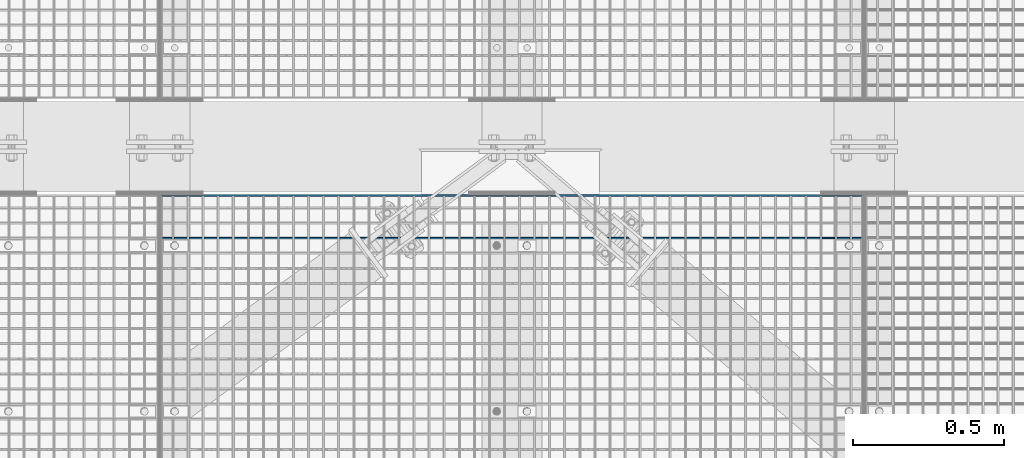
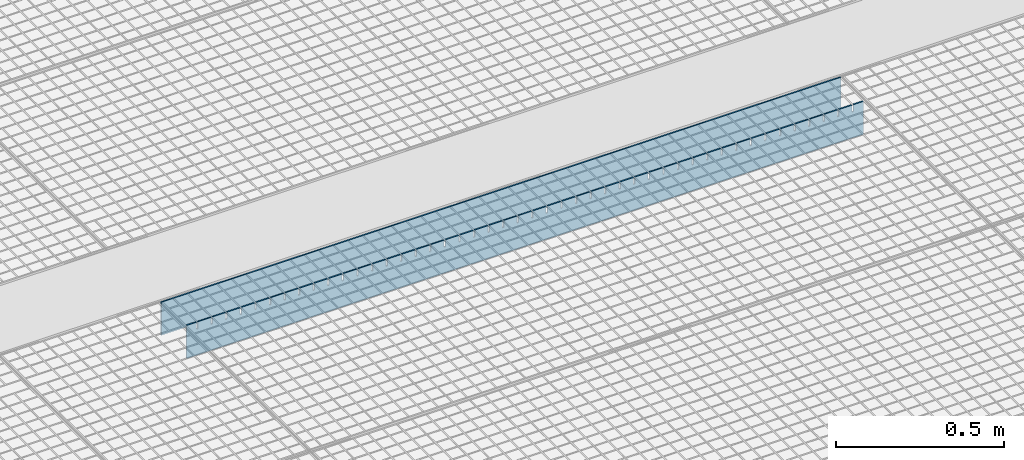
# One storey, part 333 of 1530: 2 beams.
"""IFC2X3 building model written with IfcOpenShell, lengths in millimetres."""

from ifc_helpers import new_model, si_unit, frame, origin_with_axes, place, context, subcontext, project, spatial, faceted_brep, material, type_object, element, save


model = new_model("IFC2X3")

# Units and contexts
model_context = context("Model", 3, precision=1e-05, world=origin_with_axes())
body_context = subcontext(model_context, "Body", "Model", "MODEL_VIEW")
ifc_project = project(units=[si_unit("LENGTHUNIT", "METRE", prefix="MILLI"), si_unit("AREAUNIT", "SQUARE_METRE"), si_unit("VOLUMEUNIT", "CUBIC_METRE"), si_unit("MASSUNIT", "GRAM", prefix="KILO"), si_unit("TIMEUNIT", "SECOND"), si_unit("PLANEANGLEUNIT", "RADIAN"), si_unit("SOLIDANGLEUNIT", "STERADIAN"), si_unit("THERMODYNAMICTEMPERATUREUNIT", "DEGREE_CELSIUS"), si_unit("LUMINOUSINTENSITYUNIT", "LUMEN")], contexts=[model_context])

# Site, building, storey
site_placement = place(None, origin_with_axes())
site = spatial("IfcSite", under=ifc_project, at=site_placement, Name="Brattvåg", CompositionType="ELEMENT")
building_placement = place(site_placement, origin_with_axes())
building = spatial("IfcBuilding", under=site, at=building_placement, Name="Undefined", CompositionType="ELEMENT")
storey_placement = place(building_placement, origin_with_axes())
storey = spatial("IfcBuildingStorey", under=building, at=storey_placement, Name="Undefined", CompositionType="ELEMENT", Elevation=0.0)

# Beams
ifc_material = material(Name="STEEL/S355J2")
beam_type = type_object("IfcBeamType", Name="120*5", PredefinedType="NOTDEFINED")
beam_1_placement = place(storey_placement, frame((5234.01317977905, 2696.99563598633, -59.9998626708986), z_axis=(0.0, 0.0, 1.0), x_axis=(-1.0, 1.99999855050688e-09, 0.0)))
element("IfcBeam", 1, at=beam_1_placement, inside=storey, type_object=beam_type, material=ifc_material, Name="GRATING", context=body_context, shape_type="Brep", body=[
    faceted_brep([(83.5790367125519, -2.50000000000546, 60.0000722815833), (83.5790367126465, -2.50000000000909, 35.0001373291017), (83.5790367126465, 2.50022888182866, 35.0001373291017), (83.5790367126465, 2.5, 60.0), (88.5790367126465, -2.50000000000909, 35.0001373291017), (88.5790367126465, 2.50022888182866, 35.0001373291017), (88.5790367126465, -2.50000000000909, 60.0001373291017), (88.5790367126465, 2.5, 60.0), (38.6284370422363, -2.50000000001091, 60.0001373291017), (38.6284370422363, 2.5, 60.0), (38.6284370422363, 2.49999999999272, 35.0001373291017), (38.6284370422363, -2.50000000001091, 35.0001373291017), (33.6284370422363, 2.49999999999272, 35.0001373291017), (33.6284370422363, -2.50000000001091, 35.0001373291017), (33.6284370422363, -2.5, 60.0), (33.6284370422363, 2.5, 60.0), (0.0, 2.5, 60.0), (0.0, -2.5, 60.0), (0.0, -2.5, -60.0), (0.0, 2.5, -60.0), (2319.99865722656, 2.5, -60.0), (2319.99865722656, -2.5, -60.0), (2319.99865722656, -2.5, 60.0), (2319.99865722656, 2.5, 60.0), (2286.37871932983, 2.5, 60.0), (2286.37871932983, -2.50000000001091, 60.0001373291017), (2286.37871932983, 2.49999999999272, 35.0001373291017), (2286.37871932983, -2.50000000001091, 35.0001373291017), (2281.37871932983, 2.49999999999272, 35.0001373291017), (2281.37871932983, -2.50000000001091, 35.0001373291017), (2281.37871932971, -2.50000000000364, 60.0000634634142), (2281.37871932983, 2.5, 60.0), (2236.42859649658, 2.5, 60.0), (2236.42859649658, -2.50000000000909, 60.0001373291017), (2236.42859649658, 2.50022888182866, 35.0001373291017), (2236.42859649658, -2.50000000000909, 35.0001373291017), (2231.42859649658, 2.50022888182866, 35.0001373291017), (2231.42859649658, -2.50000000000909, 35.0001373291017), (2231.42859649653, -2.50000000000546, 60.0000910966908), (2231.42859649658, 2.5, 60.0), (2186.47847366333, 2.5, 60.0), (2186.47847366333, -2.50000000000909, 60.0001373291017), (2186.47847366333, 2.50022888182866, 35.0001373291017), (2186.47847366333, -2.50000000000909, 35.0001373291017), (2181.47847366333, 2.50022888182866, 35.0001373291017), (2181.47847366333, -2.50000000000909, 35.0001373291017), (2181.47847366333, -2.5, 60.0), (2181.47847366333, 2.5, 60.0), (2136.52882766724, 2.5, 60.0), (2136.52882766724, -2.50000000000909, 60.0001373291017), (2136.52882766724, 2.50022888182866, 35.0001373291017), (2136.52882766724, -2.50000000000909, 35.0001373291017), (2131.52882766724, 2.50022888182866, 35.0001373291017), (2131.52882766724, -2.50000000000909, 35.0001373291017), (2131.52882766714, -2.50000000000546, 60.0000722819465), (2131.52882766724, 2.5, 60.0), (2086.57870483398, 2.5, 60.0), (2086.57870483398, -2.50000000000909, 60.0001373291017), (2086.57870483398, 2.50022888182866, 35.0001373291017), (2086.57870483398, -2.50000000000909, 35.0001373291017), (2081.57870483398, 2.50022888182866, 35.0001373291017), (2081.57870483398, -2.50000000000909, 35.0001373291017), (2081.57870483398, -2.5, 60.0), (2081.57870483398, 2.5, 60.0), (2036.62858200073, 2.5, 60.0), (2036.62858200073, -2.50000000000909, 60.0001373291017), (2036.62858200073, 2.50022888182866, 35.0001373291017), (2036.62858200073, -2.50000000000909, 35.0001373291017), (2031.62858200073, 2.50022888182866, 35.0001373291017), (2031.62858200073, -2.50000000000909, 35.0001373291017), (2031.62858200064, -2.50000000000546, 60.0000722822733), (2031.62858200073, 2.5, 60.0), (1986.67845916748, 2.5, 60.0), (1986.67845916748, -2.50000000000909, 60.0001373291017), (1986.67845916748, 2.50022888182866, 35.0001373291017), (1986.67845916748, -2.50000000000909, 35.0001373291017), (1981.67845916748, 2.50022888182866, 35.0001373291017), (1981.67845916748, -2.50000000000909, 35.0001373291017), (1981.67845916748, -2.5, 60.0), (1981.67845916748, 2.5, 60.0), (1936.72881317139, 2.5, 60.0), (1936.72881317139, -2.50000000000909, 60.0001373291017), (1936.72881317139, 2.50022888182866, 35.0001373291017), (1936.72881317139, -2.50000000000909, 35.0001373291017), (1931.72881317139, 2.50022888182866, 35.0001373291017), (1931.72881317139, -2.50000000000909, 35.0001373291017), (1931.72881317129, -2.50000000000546, 60.0000722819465), (1931.72881317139, 2.5, 60.0), (1886.77869033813, 2.5, 60.0), (1886.77869033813, -2.50000000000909, 60.0001373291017), (1886.77869033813, 2.50022888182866, 35.0001373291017), (1886.77869033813, -2.50000000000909, 35.0001373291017), (1881.77869033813, 2.50022888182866, 35.0001373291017), (1881.77869033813, -2.50000000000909, 35.0001373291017), (1881.77869033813, -2.5, 60.0), (1881.77869033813, 2.5, 60.0), (1836.82856750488, 2.5, 60.0), (1836.82856750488, -2.50000000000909, 60.0001373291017), (1836.82856750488, 2.50022888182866, 35.0001373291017), (1836.82856750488, -2.50000000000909, 35.0001373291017), (1831.82856750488, 2.50022888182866, 35.0001373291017), (1831.82856750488, -2.50000000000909, 35.0001373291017), (1831.82856750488, -2.5, 60.0), (1831.82856750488, 2.5, 60.0), (1786.87892150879, 2.5, 60.0), (1786.87892150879, -2.50000000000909, 60.0001373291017), (1786.87892150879, 2.50022888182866, 35.0001373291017), (1786.87892150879, -2.50000000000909, 35.0001373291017), (1781.87892150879, 2.50022888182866, 35.0001373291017), (1781.87892150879, -2.50000000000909, 35.0001373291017), (1781.87892150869, -2.50000000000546, 60.0000722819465), (1781.87892150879, 2.5, 60.0), (1736.92879867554, 2.5, 60.0), (1736.92879867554, -2.50000000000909, 60.0001373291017), (1736.92879867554, 2.50022888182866, 35.0001373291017), (1736.92879867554, -2.50000000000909, 35.0001373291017), (1731.92879867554, 2.50022888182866, 35.0001373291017), (1731.92879867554, -2.50000000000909, 35.0001373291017), (1731.92879867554, -2.5, 60.0), (1731.92879867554, 2.5, 60.0), (1686.97867584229, 2.5, 60.0), (1686.97867584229, -2.50000000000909, 60.0001373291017), (1686.97867584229, 2.50022888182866, 35.0001373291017), (1686.97867584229, -2.50000000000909, 35.0001373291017), (1681.97867584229, 2.50022888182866, 35.0001373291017), (1681.97867584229, -2.50000000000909, 35.0001373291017), (1681.97867584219, -2.50000000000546, 60.0000722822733), (1681.97867584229, 2.5, 60.0), (1637.02855300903, 2.5, 60.0), (1637.02855300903, -2.50000000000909, 60.0001373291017), (1637.02855300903, 2.50022888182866, 35.0001373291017), (1637.02855300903, -2.50000000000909, 35.0001373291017), (1632.02855300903, 2.50022888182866, 35.0001373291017), (1632.02855300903, -2.50000000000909, 35.0001373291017), (1632.02855300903, -2.5, 60.0), (1632.02855300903, 2.5, 60.0), (1587.07890701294, 2.5, 60.0), (1587.07890701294, -2.50000000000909, 60.0001373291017), (1587.07890701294, 2.50022888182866, 35.0001373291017), (1587.07890701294, -2.50000000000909, 35.0001373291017), (1582.07890701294, 2.50022888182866, 35.0001373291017), (1582.07890701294, -2.50000000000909, 35.0001373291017), (1582.07890701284, -2.50000000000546, 60.0000722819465), (1582.07890701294, 2.5, 60.0), (1537.12878417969, 2.5, 60.0), (1537.12878417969, -2.50000000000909, 60.0001373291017), (1537.12878417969, 2.50022888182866, 35.0001373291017), (1537.12878417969, -2.50000000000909, 35.0001373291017), (1532.12878417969, 2.50022888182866, 35.0001373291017), (1532.12878417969, -2.50000000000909, 35.0001373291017), (1532.12878417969, -2.5, 60.0), (1532.12878417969, 2.5, 60.0), (1487.17866134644, 2.5, 60.0), (1487.17866134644, -2.50000000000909, 60.0001373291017), (1487.17866134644, 2.50022888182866, 35.0001373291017), (1487.17866134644, -2.50000000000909, 35.0001373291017), (1482.17866134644, 2.50022888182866, 35.0001373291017), (1482.17866134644, -2.50000000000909, 35.0001373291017), (1482.17866134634, -2.50000000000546, 60.0000722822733), (1482.17866134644, 2.5, 60.0), (1437.22853851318, 2.5, 60.0), (1437.22853851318, -2.50000000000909, 60.0001373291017), (1437.22853851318, 2.50022888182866, 35.0001373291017), (1437.22853851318, -2.50000000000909, 35.0001373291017), (1432.22853851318, 2.50022888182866, 35.0001373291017), (1432.22853851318, -2.50000000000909, 35.0001373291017), (1432.22853851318, -2.5, 60.0), (1432.22853851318, 2.5, 60.0), (1387.27889251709, 2.5, 60.0), (1387.27889251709, -2.50000000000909, 60.0001373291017), (1387.27889251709, 2.50022888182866, 35.0001373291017), (1387.27889251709, -2.50000000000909, 35.0001373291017), (1382.27889251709, 2.50022888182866, 35.0001373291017), (1382.27889251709, -2.50000000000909, 35.0001373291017), (1382.278892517, -2.50000000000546, 60.0000722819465), (1382.27889251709, 2.5, 60.0), (1337.32876968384, 2.5, 60.0), (1337.32876968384, -2.50000000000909, 60.0001373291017), (1337.32876968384, 2.50022888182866, 35.0001373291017), (1337.32876968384, -2.50000000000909, 35.0001373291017), (1332.32876968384, 2.50022888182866, 35.0001373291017), (1332.32876968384, -2.50000000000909, 35.0001373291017), (1332.32876968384, -2.5, 60.0), (1332.32876968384, 2.5, 60.0), (1287.37864685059, 2.5, 60.0), (1287.37864685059, -2.50000000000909, 60.0001373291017), (1287.37864685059, 2.50022888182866, 35.0001373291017), (1287.37864685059, -2.50000000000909, 35.0001373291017), (1282.37864685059, 2.50022888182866, 35.0001373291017), (1282.37864685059, -2.50000000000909, 35.0001373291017), (1282.37864685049, -2.50000000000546, 60.0000722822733), (1282.37864685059, 2.5, 60.0), (1237.42852401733, 2.5, 60.0), (1237.42852401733, -2.50000000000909, 60.0001373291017), (1237.42852401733, 2.50022888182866, 35.0001373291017), (1237.42852401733, -2.50000000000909, 35.0001373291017), (1232.42852401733, 2.50022888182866, 35.0001373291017), (1232.42852401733, -2.50000000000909, 35.0001373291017), (1232.42852401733, -2.5, 60.0), (1232.42852401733, 2.5, 60.0), (1187.47887802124, 2.5, 60.0), (1187.47887802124, -2.50000000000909, 60.0001373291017), (1187.47887802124, 2.50022888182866, 35.0001373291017), (1187.47887802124, -2.50000000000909, 35.0001373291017), (1182.47887802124, 2.50022888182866, 35.0001373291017), (1182.47887802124, -2.50000000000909, 35.0001373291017), (1182.47887802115, -2.50000000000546, 60.0000722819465), (1182.47887802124, 2.5, 60.0), (1137.52875518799, 2.5, 60.0), (1137.52875518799, -2.50000000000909, 60.0001373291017), (1137.52875518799, 2.50022888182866, 35.0001373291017), (1137.52875518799, -2.50000000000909, 35.0001373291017), (1132.52875518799, 2.50022888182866, 35.0001373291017), (1132.52875518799, -2.50000000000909, 35.0001373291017), (1132.52875518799, -2.5, 60.0), (1132.52875518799, 2.5, 60.0), (1087.57863235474, 2.5, 60.0), (1087.57863235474, -2.50000000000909, 60.0001373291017), (1087.57863235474, 2.50022888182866, 35.0001373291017), (1087.57863235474, -2.50000000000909, 35.0001373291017), (1082.57863235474, 2.50022888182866, 35.0001373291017), (1082.57863235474, -2.50000000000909, 35.0001373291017), (1082.57863235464, -2.50000000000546, 60.0000722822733), (1082.57863235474, 2.5, 60.0), (1037.62850952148, 2.5, 60.0), (1037.62850952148, -2.50000000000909, 60.0001373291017), (1037.62850952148, 2.50022888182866, 35.0001373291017), (1037.62850952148, -2.50000000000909, 35.0001373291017), (1032.62850952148, 2.50022888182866, 35.0001373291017), (1032.62850952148, -2.50000000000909, 35.0001373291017), (1032.62850952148, -2.5, 60.0), (1032.62850952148, 2.5, 60.0), (987.678863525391, 2.5, 60.0), (987.678863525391, -2.50000000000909, 60.0001373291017), (987.678863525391, 2.50022888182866, 35.0001373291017), (987.678863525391, -2.50000000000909, 35.0001373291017), (982.678863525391, 2.50022888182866, 35.0001373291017), (982.678863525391, -2.50000000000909, 35.0001373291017), (982.678863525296, -2.50000000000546, 60.0000722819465), (982.678863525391, 2.5, 60.0), (937.728740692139, 2.5, 60.0), (937.728740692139, -2.50000000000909, 60.0001373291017), (937.728740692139, 2.50022888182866, 35.0001373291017), (937.728740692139, -2.50000000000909, 35.0001373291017), (932.728740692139, 2.50022888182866, 35.0001373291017), (932.728740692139, -2.50000000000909, 35.0001373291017), (932.728740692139, -2.5, 60.0), (932.728740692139, 2.5, 60.0), (887.778617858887, 2.5, 60.0), (887.778617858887, -2.50000000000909, 60.0001373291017), (887.778617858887, 2.50022888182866, 35.0001373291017), (887.778617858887, -2.50000000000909, 35.0001373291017), (882.778617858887, 2.50022888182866, 35.0001373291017), (882.778617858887, -2.50000000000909, 35.0001373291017), (882.778617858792, -2.50000000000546, 60.0000722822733), (882.778617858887, 2.5, 60.0), (837.828495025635, 2.5, 60.0), (837.828495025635, -2.50000000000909, 60.0001373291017), (837.828495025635, 2.50022888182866, 35.0001373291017), (837.828495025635, -2.50000000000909, 35.0001373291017), (832.828495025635, 2.50022888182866, 35.0001373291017), (832.828495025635, -2.50000000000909, 35.0001373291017), (832.828495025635, -2.5, 60.0), (832.828495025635, 2.5, 60.0), (787.878849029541, 2.5, 60.0), (787.878849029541, -2.50000000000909, 60.0001373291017), (787.878849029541, 2.50022888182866, 35.0001373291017), (787.878849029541, -2.50000000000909, 35.0001373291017), (782.878849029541, 2.50022888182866, 35.0001373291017), (782.878849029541, -2.50000000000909, 35.0001373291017), (782.878849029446, -2.50000000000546, 60.0000722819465), (782.878849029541, 2.5, 60.0), (737.928726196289, 2.5, 60.0), (737.928726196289, -2.50000000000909, 60.0001373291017), (737.928726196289, 2.50022888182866, 35.0001373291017), (737.928726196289, -2.50000000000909, 35.0001373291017), (732.928726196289, 2.50022888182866, 35.0001373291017), (732.928726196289, -2.50000000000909, 35.0001373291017), (732.928726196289, -2.5, 60.0), (732.928726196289, 2.5, 60.0), (687.978603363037, 2.5, 60.0), (687.978603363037, -2.50000000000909, 60.0001373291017), (687.978603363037, 2.50022888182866, 35.0001373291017), (687.978603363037, -2.50000000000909, 35.0001373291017), (682.978603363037, 2.50022888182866, 35.0001373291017), (682.978603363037, -2.50000000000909, 35.0001373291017), (682.978603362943, -2.50000000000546, 60.0000722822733), (682.978603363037, 2.5, 60.0), (638.028480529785, 2.5, 60.0), (638.028480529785, -2.50000000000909, 60.0001373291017), (638.028480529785, 2.50022888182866, 35.0001373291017), (638.028480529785, -2.50000000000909, 35.0001373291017), (633.028480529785, 2.50022888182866, 35.0001373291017), (633.028480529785, -2.50000000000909, 35.0001373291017), (633.028480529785, -2.5, 60.0), (633.028480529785, 2.5, 60.0), (588.078834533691, 2.5, 60.0), (588.078834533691, -2.50000000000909, 60.0001373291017), (588.078834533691, 2.50022888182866, 35.0001373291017), (588.078834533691, -2.50000000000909, 35.0001373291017), (583.078834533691, 2.50022888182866, 35.0001373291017), (583.078834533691, -2.50000000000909, 35.0001373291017), (583.078834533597, -2.50000000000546, 60.0000722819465), (583.078834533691, 2.5, 60.0), (538.128711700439, 2.5, 60.0), (538.128711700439, -2.50000000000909, 60.0001373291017), (538.128711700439, 2.50022888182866, 35.0001373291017), (538.128711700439, -2.50000000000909, 35.0001373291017), (533.128711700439, 2.50022888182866, 35.0001373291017), (533.128711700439, -2.50000000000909, 35.0001373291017), (533.128711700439, -2.5, 60.0), (533.128711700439, 2.5, 60.0), (488.178588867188, 2.5, 60.0), (488.178588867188, -2.50000000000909, 60.0001373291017), (488.178588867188, 2.50022888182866, 35.0001373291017), (488.178588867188, -2.50000000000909, 35.0001373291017), (483.178588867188, 2.50022888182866, 35.0001373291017), (483.178588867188, -2.50000000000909, 35.0001373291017), (483.178588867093, -2.50000000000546, 60.0000722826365), (483.178588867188, 2.5, 60.0), (438.228942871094, 2.5, 60.0), (438.228942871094, -2.50000000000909, 60.0001373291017), (438.228942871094, 2.50022888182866, 35.0001373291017), (438.228942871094, -2.50000000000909, 35.0001373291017), (433.228942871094, 2.50022888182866, 35.0001373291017), (433.228942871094, -2.50000000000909, 35.0001373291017), (433.228942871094, -2.5, 60.0), (433.228942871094, 2.5, 60.0), (388.278820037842, 2.5, 60.0), (388.278820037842, -2.50000000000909, 60.0001373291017), (388.278820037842, 2.50022888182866, 35.0001373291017), (388.278820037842, -2.50000000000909, 35.0001373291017), (383.278820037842, 2.50022888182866, 35.0001373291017), (383.278820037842, -2.50000000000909, 35.0001373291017), (383.278820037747, -2.50000000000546, 60.0000722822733), (383.278820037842, 2.5, 60.0), (338.32869720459, 2.5, 60.0), (338.32869720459, -2.50000000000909, 60.0001373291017), (338.32869720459, 2.50022888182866, 35.0001373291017), (338.32869720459, -2.50000000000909, 35.0001373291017), (333.32869720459, 2.50022888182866, 35.0001373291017), (333.32869720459, -2.50000000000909, 35.0001373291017), (333.32869720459, -2.5, 60.0), (333.32869720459, 2.5, 60.0), (288.378574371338, 2.5, 60.0), (288.378574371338, -2.50000000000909, 60.0001373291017), (288.378574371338, 2.50022888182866, 35.0001373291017), (288.378574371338, -2.50000000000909, 35.0001373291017), (283.378574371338, 2.50022888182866, 35.0001373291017), (283.378574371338, -2.50000000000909, 35.0001373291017), (283.378574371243, -2.50000000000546, 60.0000722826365), (283.378574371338, 2.5, 60.0), (238.428928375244, 2.5, 60.0), (238.428928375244, -2.50000000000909, 60.0001373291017), (238.428928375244, 2.50022888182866, 35.0001373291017), (238.428928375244, -2.50000000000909, 35.0001373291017), (233.428928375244, 2.50022888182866, 35.0001373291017), (233.428928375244, -2.50000000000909, 35.0001373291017), (233.428928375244, -2.5, 60.0), (233.428928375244, 2.5, 60.0), (188.478328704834, 2.5, 60.0), (188.478328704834, -2.50000000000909, 60.0001373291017), (188.478328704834, 2.50022888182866, 35.0001373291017), (188.478328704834, -2.50000000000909, 35.0001373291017), (183.478328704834, 2.50022888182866, 35.0001373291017), (183.478328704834, -2.50000000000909, 35.0001373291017), (183.478328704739, -2.50000000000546, 60.0000722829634), (183.478328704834, 2.5, 60.0), (138.52868270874, 2.5, 60.0), (138.52868270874, -2.50000000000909, 60.0001373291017), (138.52868270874, 2.50022888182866, 35.0001373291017), (138.52868270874, -2.50000000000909, 35.0001373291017), (133.52868270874, 2.50022888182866, 35.0001373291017), (133.52868270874, -2.50000000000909, 35.0001373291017), (133.52868270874, -2.5, 60.0), (133.52868270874, 2.5, 60.0)], [[[0, 1, 2, 3]], [[4, 5, 2, 1]], [[6, 7, 5, 4]], [[8, 9, 10, 11]], [[11, 10, 12, 13]], [[14, 13, 12, 15]], [[16, 17, 14, 15]], [[18, 17, 16, 19]], [[18, 19, 20, 21]], [[22, 21, 20, 23]], [[22, 23, 24, 25]], [[25, 24, 26, 27]], [[27, 26, 28, 29]], [[30, 29, 28, 31]], [[32, 33, 30, 31]], [[33, 32, 34, 35]], [[35, 34, 36, 37]], [[38, 37, 36, 39]], [[40, 41, 38, 39]], [[41, 40, 42, 43]], [[43, 42, 44, 45]], [[46, 45, 44, 47]], [[46, 47, 48, 49]], [[49, 48, 50, 51]], [[51, 50, 52, 53]], [[54, 53, 52, 55]], [[56, 57, 54, 55]], [[57, 56, 58, 59]], [[59, 58, 60, 61]], [[62, 61, 60, 63]], [[62, 63, 64, 65]], [[65, 64, 66, 67]], [[67, 66, 68, 69]], [[70, 69, 68, 71]], [[72, 73, 70, 71]], [[73, 72, 74, 75]], [[75, 74, 76, 77]], [[78, 77, 76, 79]], [[78, 79, 80, 81]], [[81, 80, 82, 83]], [[83, 82, 84, 85]], [[86, 85, 84, 87]], [[88, 89, 86, 87]], [[89, 88, 90, 91]], [[91, 90, 92, 93]], [[94, 93, 92, 95]], [[94, 95, 96, 97]], [[97, 96, 98, 99]], [[99, 98, 100, 101]], [[102, 101, 100, 103]], [[102, 103, 104, 105]], [[105, 104, 106, 107]], [[107, 106, 108, 109]], [[110, 109, 108, 111]], [[112, 113, 110, 111]], [[113, 112, 114, 115]], [[115, 114, 116, 117]], [[118, 117, 116, 119]], [[118, 119, 120, 121]], [[121, 120, 122, 123]], [[123, 122, 124, 125]], [[126, 125, 124, 127]], [[128, 129, 126, 127]], [[129, 128, 130, 131]], [[131, 130, 132, 133]], [[134, 133, 132, 135]], [[134, 135, 136, 137]], [[137, 136, 138, 139]], [[139, 138, 140, 141]], [[142, 141, 140, 143]], [[144, 145, 142, 143]], [[145, 144, 146, 147]], [[147, 146, 148, 149]], [[150, 149, 148, 151]], [[150, 151, 152, 153]], [[153, 152, 154, 155]], [[155, 154, 156, 157]], [[158, 157, 156, 159]], [[160, 161, 158, 159]], [[161, 160, 162, 163]], [[163, 162, 164, 165]], [[166, 165, 164, 167]], [[166, 167, 168, 169]], [[169, 168, 170, 171]], [[171, 170, 172, 173]], [[174, 173, 172, 175]], [[176, 177, 174, 175]], [[177, 176, 178, 179]], [[179, 178, 180, 181]], [[182, 181, 180, 183]], [[182, 183, 184, 185]], [[185, 184, 186, 187]], [[187, 186, 188, 189]], [[190, 189, 188, 191]], [[192, 193, 190, 191]], [[193, 192, 194, 195]], [[195, 194, 196, 197]], [[198, 197, 196, 199]], [[198, 199, 200, 201]], [[201, 200, 202, 203]], [[203, 202, 204, 205]], [[206, 205, 204, 207]], [[208, 209, 206, 207]], [[209, 208, 210, 211]], [[211, 210, 212, 213]], [[214, 213, 212, 215]], [[214, 215, 216, 217]], [[217, 216, 218, 219]], [[219, 218, 220, 221]], [[222, 221, 220, 223]], [[224, 225, 222, 223]], [[225, 224, 226, 227]], [[227, 226, 228, 229]], [[230, 229, 228, 231]], [[230, 231, 232, 233]], [[233, 232, 234, 235]], [[235, 234, 236, 237]], [[238, 237, 236, 239]], [[240, 241, 238, 239]], [[241, 240, 242, 243]], [[243, 242, 244, 245]], [[246, 245, 244, 247]], [[246, 247, 248, 249]], [[249, 248, 250, 251]], [[251, 250, 252, 253]], [[254, 253, 252, 255]], [[256, 257, 254, 255]], [[257, 256, 258, 259]], [[259, 258, 260, 261]], [[262, 261, 260, 263]], [[262, 263, 264, 265]], [[265, 264, 266, 267]], [[267, 266, 268, 269]], [[270, 269, 268, 271]], [[272, 273, 270, 271]], [[273, 272, 274, 275]], [[275, 274, 276, 277]], [[278, 277, 276, 279]], [[278, 279, 280, 281]], [[281, 280, 282, 283]], [[283, 282, 284, 285]], [[286, 285, 284, 287]], [[288, 289, 286, 287]], [[289, 288, 290, 291]], [[291, 290, 292, 293]], [[294, 293, 292, 295]], [[294, 295, 296, 297]], [[297, 296, 298, 299]], [[299, 298, 300, 301]], [[302, 301, 300, 303]], [[304, 305, 302, 303]], [[305, 304, 306, 307]], [[307, 306, 308, 309]], [[310, 309, 308, 311]], [[310, 311, 312, 313]], [[313, 312, 314, 315]], [[315, 314, 316, 317]], [[318, 317, 316, 319]], [[320, 321, 318, 319]], [[321, 320, 322, 323]], [[323, 322, 324, 325]], [[326, 325, 324, 327]], [[326, 327, 328, 329]], [[329, 328, 330, 331]], [[331, 330, 332, 333]], [[334, 333, 332, 335]], [[336, 337, 334, 335]], [[337, 336, 338, 339]], [[339, 338, 340, 341]], [[342, 341, 340, 343]], [[342, 343, 344, 345]], [[345, 344, 346, 347]], [[347, 346, 348, 349]], [[350, 349, 348, 351]], [[352, 353, 350, 351]], [[353, 352, 354, 355]], [[355, 354, 356, 357]], [[358, 357, 356, 359]], [[358, 359, 360, 361]], [[361, 360, 362, 363]], [[363, 362, 364, 365]], [[366, 365, 364, 367]], [[368, 369, 366, 367]], [[369, 368, 370, 371]], [[371, 370, 372, 373]], [[374, 373, 372, 375]], [[1, 0, 8, 11, 13, 14, 17, 18, 21, 22, 25, 27, 29, 30, 33, 35, 37, 38, 41, 43, 45, 46, 49, 51, 53, 54, 57, 59, 61, 62, 65, 67, 69, 70, 73, 75, 77, 78, 81, 83, 85, 86, 89, 91, 93, 94, 97, 99, 101, 102, 105, 107, 109, 110, 113, 115, 117, 118, 121, 123, 125, 126, 129, 131, 133, 134, 137, 139, 141, 142, 145, 147, 149, 150, 153, 155, 157, 158, 161, 163, 165, 166, 169, 171, 173, 174, 177, 179, 181, 182, 185, 187, 189, 190, 193, 195, 197, 198, 201, 203, 205, 206, 209, 211, 213, 214, 217, 219, 221, 222, 225, 227, 229, 230, 233, 235, 237, 238, 241, 243, 245, 246, 249, 251, 253, 254, 257, 259, 261, 262, 265, 267, 269, 270, 273, 275, 277, 278, 281, 283, 285, 286, 289, 291, 293, 294, 297, 299, 301, 302, 305, 307, 309, 310, 313, 315, 317, 318, 321, 323, 325, 326, 329, 331, 333, 334, 337, 339, 341, 342, 345, 347, 349, 350, 353, 355, 357, 358, 361, 363, 365, 366, 369, 371, 373, 374, 6, 4]], [[9, 8, 0, 3]], [[375, 372, 370, 368, 367, 364, 362, 360, 359, 356, 354, 352, 351, 348, 346, 344, 343, 340, 338, 336, 335, 332, 330, 328, 327, 324, 322, 320, 319, 316, 314, 312, 311, 308, 306, 304, 303, 300, 298, 296, 295, 292, 290, 288, 287, 284, 282, 280, 279, 276, 274, 272, 271, 268, 266, 264, 263, 260, 258, 256, 255, 252, 250, 248, 247, 244, 242, 240, 239, 236, 234, 232, 231, 228, 226, 224, 223, 220, 218, 216, 215, 212, 210, 208, 207, 204, 202, 200, 199, 196, 194, 192, 191, 188, 186, 184, 183, 180, 178, 176, 175, 172, 170, 168, 167, 164, 162, 160, 159, 156, 154, 152, 151, 148, 146, 144, 143, 140, 138, 136, 135, 132, 130, 128, 127, 124, 122, 120, 119, 116, 114, 112, 111, 108, 106, 104, 103, 100, 98, 96, 95, 92, 90, 88, 87, 84, 82, 80, 79, 76, 74, 72, 71, 68, 66, 64, 63, 60, 58, 56, 55, 52, 50, 48, 47, 44, 42, 40, 39, 36, 34, 32, 31, 28, 26, 24, 23, 20, 19, 16, 15, 12, 10, 9, 3, 2, 5, 7]], [[374, 375, 7, 6]]]),
])
beam_2_placement = place(storey_placement, frame((5239.00899291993, 2838.49917602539, -59.9998626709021), z_axis=(0.0, 0.0, 1.0), x_axis=(-1.0, 1.99999855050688e-09, 0.0)))
element("IfcBeam", 2, at=beam_2_placement, inside=storey, type_object=beam_type, material=ifc_material, Name="GRATING", context=body_context, shape_type="Brep", body=[
    faceted_brep([(0.0, 2.5, -60.0), (0.0, 2.5, 60.0), (2329.99832153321, 2.5, 60.0), (2329.99832153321, 2.5, -60.0), (0.0, -2.5, 60.0), (2329.99832153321, -2.5, 60.0), (0.0, -2.5, -60.0), (2329.99832153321, -2.5, -60.0)], [[[0, 1, 2, 3]], [[1, 4, 5, 2]], [[4, 6, 7, 5]], [[6, 0, 3, 7]], [[5, 7, 3, 2]], [[6, 4, 1, 0]]]),
])

save(model, "model.ifc")
